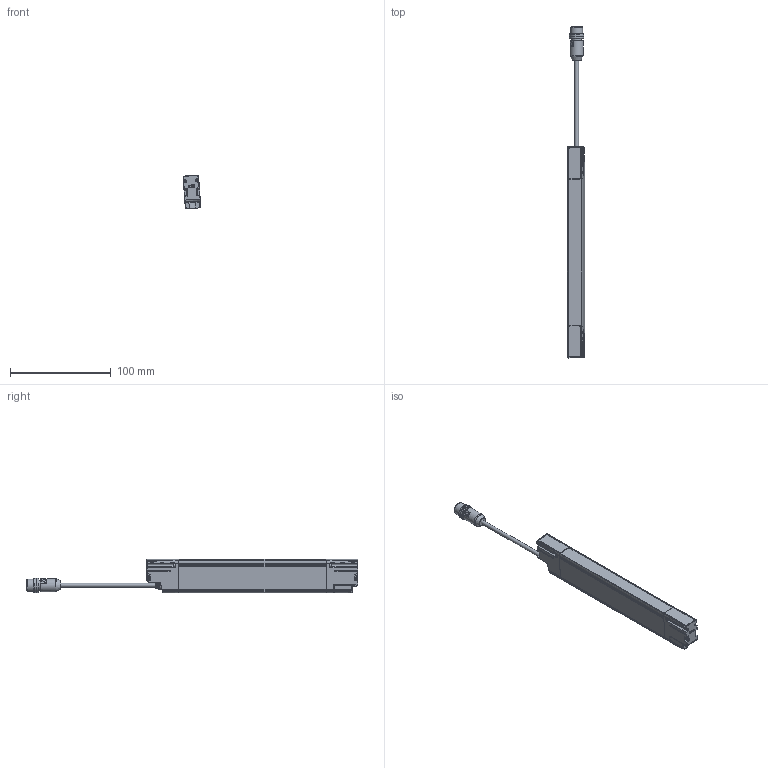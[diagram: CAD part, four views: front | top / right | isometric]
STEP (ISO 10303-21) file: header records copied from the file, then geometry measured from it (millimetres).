
FILE_DESCRIPTION(/* description */ (''),/* implementation_level */ '2;1');
FILE_NAME(/* name */ 'DSD-0623.stp',/* time_stamp */ '2015-02-23T16:58:11+01:00',/* author */ (''),/* organization */ (''),/* preprocessor_version */ 'ST-DEVELOPER v11',/* originating_system */ 'SIEMENS PLM Software NX 7.5',/* authorisation */ '');
FILE_SCHEMA (('AUTOMOTIVE_DESIGN { 1 0 10303 214 1 1 1 1 }'));
Length unit declared in the file: millimetre
Products named in the file (1): AP008099_00
Bounding box: 17.36 x 330.24 x 33.46 mm (x, y, z)
Surface area: 28444.5 mm2 (no closed solid volume)
Topology: 0 solids, 46 shells, 1122 faces, 3583 edges, 2361 vertices
Faces by surface type: cylinder 401, plane 328, bspline 155, torus 114, sphere 72, cone 52
Full cylindrical faces by diameter (mm): 1 x5, 1.2 x2, 2.6 x6, 4 x1, 8.3 x1, 9.4 x1, 10.4 x1, 12 x1, 13 x1, 13.5 x1, 14.5 x2
Entity records: 48278 total; most frequent: CARTESIAN_POINT 17951, DIRECTION 6435, ORIENTED_EDGE 5623, EDGE_CURVE 3441, AXIS2_PLACEMENT_3D 2435, VERTEX_POINT 2317, LINE 1565, VECTOR 1565
